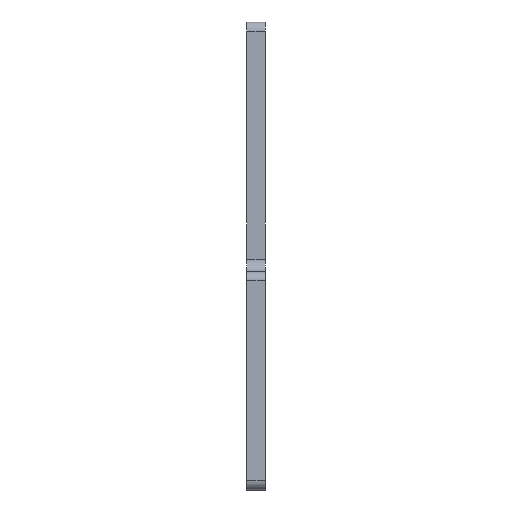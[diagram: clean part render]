
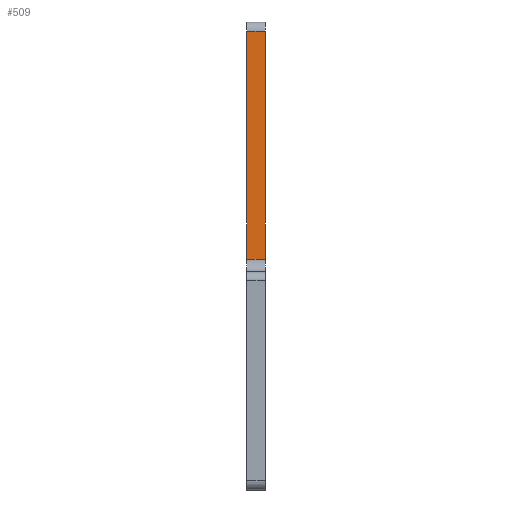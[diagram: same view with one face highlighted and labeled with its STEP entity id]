
A CAD part, left-side view. The second image highlights one B-rep face of the part: STEP entity #509.
In plain terms, the highlighted planar face has unit normal (-1, 0, 0).
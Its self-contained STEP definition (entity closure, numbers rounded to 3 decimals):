
#23 = EDGE_CURVE ( 'NONE', #696, #703, #656, .T. ) ;
#50 = EDGE_CURVE ( 'NONE', #709, #703, #628, .T. ) ;
#52 = EDGE_CURVE ( 'NONE', #696, #671, #632, .T. ) ;
#71 = EDGE_CURVE ( 'NONE', #671, #709, #609, .T. ) ;
#130 = AXIS2_PLACEMENT_3D ( 'NONE', #432, #355, #356 ) ;
#241 = DIRECTION ( 'NONE',  ( 0., 0., -1. ) ) ;
#242 = CARTESIAN_POINT ( 'NONE',  ( -17.5, 3., 37.5 ) ) ;
#266 = DIRECTION ( 'NONE',  ( 0., 1., 0. ) ) ;
#267 = DIRECTION ( 'NONE',  ( 0., -1., 0. ) ) ;
#269 = CARTESIAN_POINT ( 'NONE',  ( -17.5, 0., -0.5 ) ) ;
#272 = CARTESIAN_POINT ( 'NONE',  ( -17.5, 0., 37.5 ) ) ;
#273 = DIRECTION ( 'NONE',  ( 0., 0., -1. ) ) ;
#282 = CARTESIAN_POINT ( 'NONE',  ( -17.5, -0.001, 36. ) ) ;
#355 = DIRECTION ( 'NONE',  ( 1., 0., 0. ) ) ;
#356 = DIRECTION ( 'NONE',  ( 0., 0., -1. ) ) ;
#381 = CARTESIAN_POINT ( 'NONE',  ( -17.5, 3., -0.5 ) ) ;
#384 = CARTESIAN_POINT ( 'NONE',  ( -17.5, 0., 36. ) ) ;
#385 = PLANE ( 'NONE',  #130 ) ;
#393 = CARTESIAN_POINT ( 'NONE',  ( -17.5, 3., 36. ) ) ;
#398 = CARTESIAN_POINT ( 'NONE',  ( -17.5, 0., -0.5 ) ) ;
#432 = CARTESIAN_POINT ( 'NONE',  ( -17.5, -0.001, 37.5 ) ) ;
#509 = ADVANCED_FACE ( 'NONE', ( #533 ), #385, .F. ) ;
#533 = FACE_OUTER_BOUND ( 'NONE', #763, .T. ) ;
#606 = VECTOR ( 'NONE', #241, 1000. ) ;
#609 = LINE ( 'NONE', #242, #606 ) ;
#623 = VECTOR ( 'NONE', #266, 1000. ) ;
#625 = VECTOR ( 'NONE', #267, 1000. ) ;
#628 = LINE ( 'NONE', #269, #625 ) ;
#632 = LINE ( 'NONE', #282, #623 ) ;
#654 = VECTOR ( 'NONE', #273, 1000. ) ;
#656 = LINE ( 'NONE', #272, #654 ) ;
#671 = VERTEX_POINT ( 'NONE', #393 ) ;
#696 = VERTEX_POINT ( 'NONE', #384 ) ;
#703 = VERTEX_POINT ( 'NONE', #398 ) ;
#709 = VERTEX_POINT ( 'NONE', #381 ) ;
#763 = EDGE_LOOP ( 'NONE', ( #782, #784, #785, #787 ) ) ;
#782 = ORIENTED_EDGE ( 'NONE', *, *, #71, .T. ) ;
#784 = ORIENTED_EDGE ( 'NONE', *, *, #50, .T. ) ;
#785 = ORIENTED_EDGE ( 'NONE', *, *, #23, .F. ) ;
#787 = ORIENTED_EDGE ( 'NONE', *, *, #52, .T. ) ;
